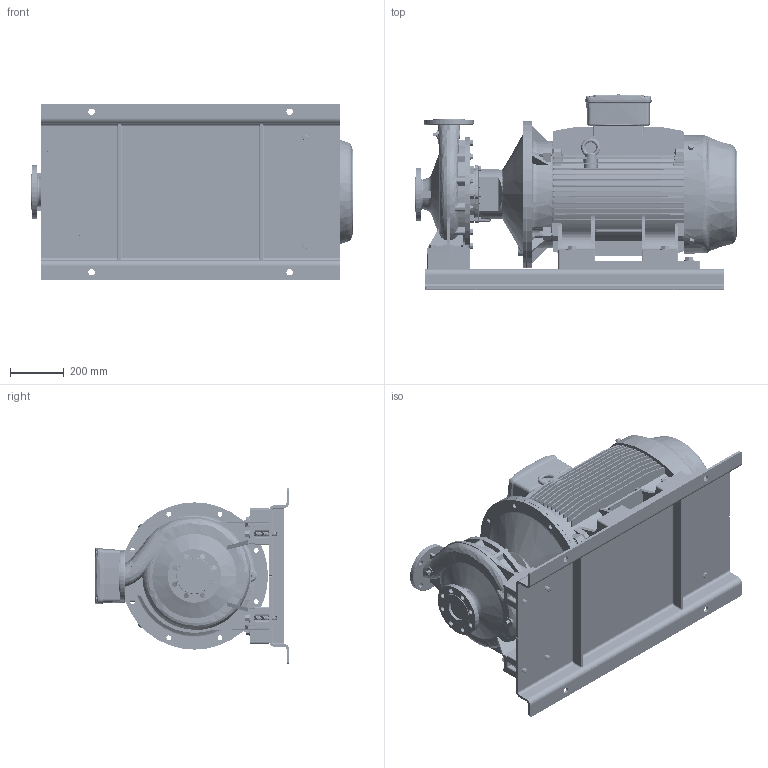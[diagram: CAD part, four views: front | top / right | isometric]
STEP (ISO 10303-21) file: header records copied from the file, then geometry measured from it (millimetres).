
FILE_DESCRIPTION (( 'STEP AP214' ), '1' );
FILE_NAME ('GSD2 65-315_75_(250SM)_W21_BP.STEP', '2024-05-17T04:32:33', ( '' ), ( '' ), 'SwSTEP 2.0', 'SolidWorks 2019', '' );
FILE_SCHEMA (( 'AUTOMOTIVE_DESIGN' ));
Length unit declared in the file: millimetre
Products named in the file (17): N8S3 GSDA-838 F1-1832962-00; Parametric Nut_M16; Parametric Stud Bolt_SFSK-AB377; Parametric bolt_SFT-A417B; Parametric bolt and washer_SFT-A417B; Parametric Flat Washer_M16; 65-315-250S_M_______; GSD2  65-315_75_(250SM)_W21_BP; A407B Bolt_407; CGS11-5321_2_3_4_5_CGS11-5324; 250S_M2P IE3_W21T_B35; 100x30 - CGSDA-5291; Parametric Flat Washer_M20; CGS11-5321_2_3_4_5_CGS11-5322
Assembly tree (37 placements, depth 3):
  GSD2  65-315_75_(250SM)_W21_BP
    65-315-250S_M_______
    250S_M2P IE3_W21T_B35
    CGS11-5321_2_3_4_5_CGS11-5322  x2
    CGS11-5321_2_3_4_5_CGS11-5324  x2
    N8S3 GSDA-838 F1-1832962-00
    100x30 - CGSDA-5291  x2
    Parametric Stud Bolt_SFSK-AB377  x4
    Parametric Flat Washer_M16  x4
    Parametric Nut_M16  x4
    A407B Bolt_407  x2
    Parametric Flat Washer_M20  x2
    Parametric bolt and washer_SFT-A417B
      Parametric bolt_SFT-A417B
      Parametric Flat Washer_M20
    Parametric bolt and washer_SFT-A417B
      Parametric bolt_SFT-A417B
      Parametric Flat Washer_M20
    Parametric bolt and washer_SFT-A417B
      Parametric bolt_SFT-A417B
      Parametric Flat Washer_M20
    Parametric bolt and washer_SFT-A417B
      Parametric bolt_SFT-A417B
      Parametric Flat Washer_M20
Bounding box: 1200.5 x 728 x 660 mm (x, y, z)
Volume: 153785147.6 mm3; surface area: 7542651 mm2
Topology: 34 solids, 39 shells, 4902 faces, 13054 edges, 8357 vertices
Faces by surface type: cylinder 1953, plane 1779, cone 541, torus 321, bspline 292, sphere 16
Entity records: 182516 total; most frequent: CARTESIAN_POINT 87193, ORIENTED_EDGE 20982, DIRECTION 18785, EDGE_CURVE 10491, AXIS2_PLACEMENT_3D 6910, VERTEX_POINT 6689, VECTOR 4965, LINE 4965
